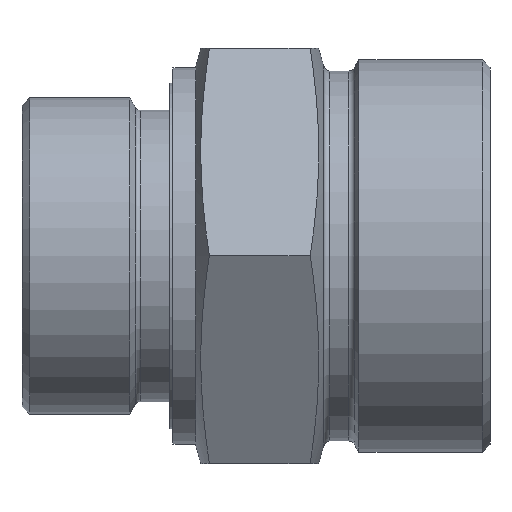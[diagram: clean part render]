
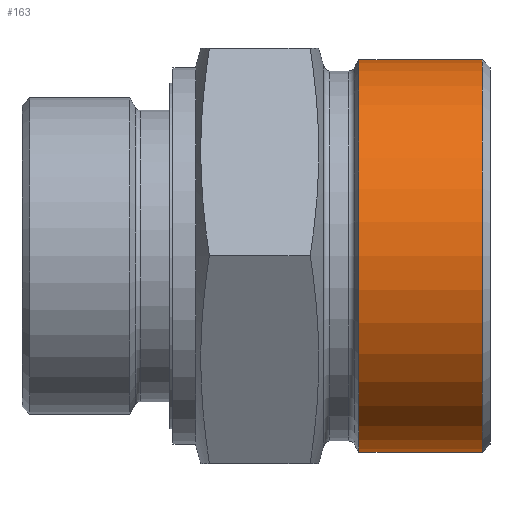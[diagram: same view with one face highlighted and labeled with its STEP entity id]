
A CAD part, top view. The second image highlights one B-rep face of the part: STEP entity #163.
In plain terms, the highlighted cylindrical face has radius 26 mm (diameter 52 mm), a full revolution.
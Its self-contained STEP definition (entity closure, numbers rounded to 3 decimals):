
#163 = ADVANCED_FACE( '', ( #327, #328 ), #329, .T. );
#327 = FACE_OUTER_BOUND( '', #483, .T. );
#328 = FACE_OUTER_BOUND( '', #484, .T. );
#329 = CYLINDRICAL_SURFACE( '', #485, 26. );
#483 = EDGE_LOOP( '', ( #710 ) );
#484 = EDGE_LOOP( '', ( #711 ) );
#485 = AXIS2_PLACEMENT_3D( '', #712, #713, #714 );
#710 = ORIENTED_EDGE( '', *, *, #826, .T. );
#711 = ORIENTED_EDGE( '', *, *, #835, .F. );
#712 = CARTESIAN_POINT( '', ( -12.5, 0., 0. ) );
#713 = DIRECTION( '', ( 1., 0., 0. ) );
#714 = DIRECTION( '', ( 0., 0., 1. ) );
#826 = EDGE_CURVE( '', #948, #948, #949, .T. );
#835 = EDGE_CURVE( '', #961, #961, #962, .T. );
#948 = VERTEX_POINT( '', #1173 );
#949 = CIRCLE( '', #1174, 26. );
#961 = VERTEX_POINT( '', #1194 );
#962 = CIRCLE( '', #1195, 26. );
#1173 = CARTESIAN_POINT( '', ( -1., 0., 26. ) );
#1174 = AXIS2_PLACEMENT_3D( '', #1283, #1284, #1285 );
#1194 = CARTESIAN_POINT( '', ( -17.365, 0., 26. ) );
#1195 = AXIS2_PLACEMENT_3D( '', #1295, #1296, #1297 );
#1283 = CARTESIAN_POINT( '', ( -1., 0., 0. ) );
#1284 = DIRECTION( '', ( -1., 0., 0. ) );
#1285 = DIRECTION( '', ( 0., 0., 1. ) );
#1295 = CARTESIAN_POINT( '', ( -17.365, 0., 0. ) );
#1296 = DIRECTION( '', ( -1., 0., 0. ) );
#1297 = DIRECTION( '', ( 0., 0., 1. ) );
